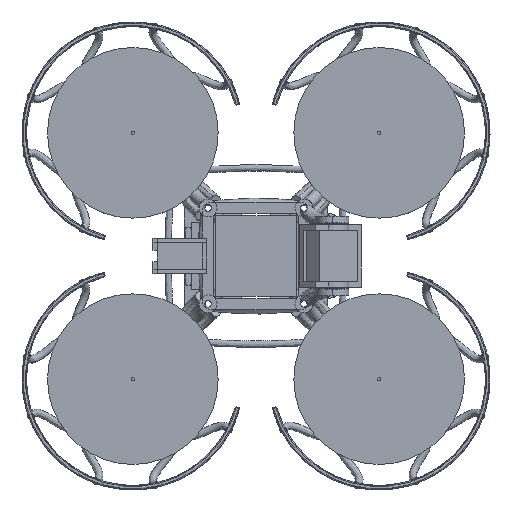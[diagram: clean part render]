
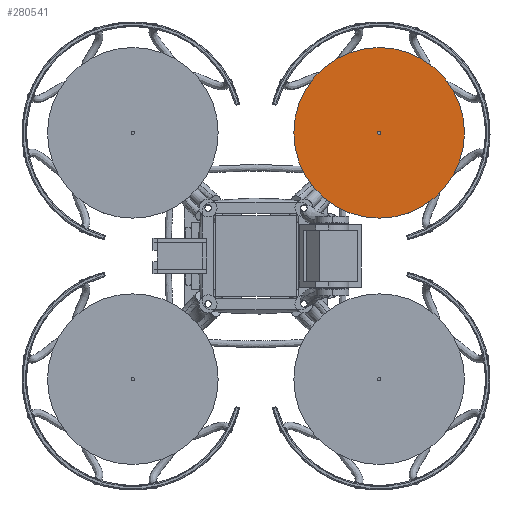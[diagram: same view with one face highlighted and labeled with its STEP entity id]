
A CAD part, top view. The second image highlights one B-rep face of the part: STEP entity #280541.
In plain terms, the highlighted planar face has unit normal (0, 0, 1).
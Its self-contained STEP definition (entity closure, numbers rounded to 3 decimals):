
#280457 = EDGE_CURVE('',#280458,#280458,#280460,.T.);
#280458 = VERTEX_POINT('',#280459);
#280459 = CARTESIAN_POINT('',(93.1,55.,25.1));
#280460 = SURFACE_CURVE('',#280461,(#280466,#280478),.PCURVE_S1.);
#280461 = CIRCLE('',#280462,38.1);
#280462 = AXIS2_PLACEMENT_3D('',#280463,#280464,#280465);
#280463 = CARTESIAN_POINT('',(55.,55.,25.1));
#280464 = DIRECTION('',(0.,0.,1.));
#280465 = DIRECTION('',(1.,0.,-0.));
#280466 = PCURVE('',#280467,#280472);
#280467 = CYLINDRICAL_SURFACE('',#280468,38.1);
#280468 = AXIS2_PLACEMENT_3D('',#280469,#280470,#280471);
#280469 = CARTESIAN_POINT('',(55.,55.,23.1));
#280470 = DIRECTION('',(0.,0.,1.));
#280471 = DIRECTION('',(1.,0.,-0.));
#280472 = DEFINITIONAL_REPRESENTATION('',(#280473),#280477);
#280473 = LINE('',#280474,#280475);
#280474 = CARTESIAN_POINT('',(0.,2.));
#280475 = VECTOR('',#280476,1.);
#280476 = DIRECTION('',(1.,0.));
#280477 = ( GEOMETRIC_REPRESENTATION_CONTEXT(2) 
PARAMETRIC_REPRESENTATION_CONTEXT() REPRESENTATION_CONTEXT('2D SPACE',''
  ) );
#280478 = PCURVE('',#280479,#280484);
#280479 = PLANE('',#280480);
#280480 = AXIS2_PLACEMENT_3D('',#280481,#280482,#280483);
#280481 = CARTESIAN_POINT('',(55.,55.,25.1));
#280482 = DIRECTION('',(0.,0.,1.));
#280483 = DIRECTION('',(1.,0.,-0.));
#280484 = DEFINITIONAL_REPRESENTATION('',(#280485),#280489);
#280485 = CIRCLE('',#280486,38.1);
#280486 = AXIS2_PLACEMENT_2D('',#280487,#280488);
#280487 = CARTESIAN_POINT('',(0.,0.));
#280488 = DIRECTION('',(1.,0.));
#280489 = ( GEOMETRIC_REPRESENTATION_CONTEXT(2) 
PARAMETRIC_REPRESENTATION_CONTEXT() REPRESENTATION_CONTEXT('2D SPACE',''
  ) );
#280541 = ADVANCED_FACE('',(#280542),#280479,.T.);
#280542 = FACE_BOUND('',#280543,.T.);
#280543 = EDGE_LOOP('',(#280544));
#280544 = ORIENTED_EDGE('',*,*,#280457,.T.);
